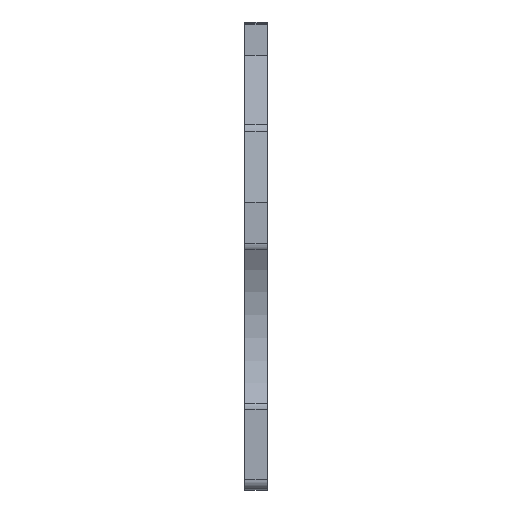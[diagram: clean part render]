
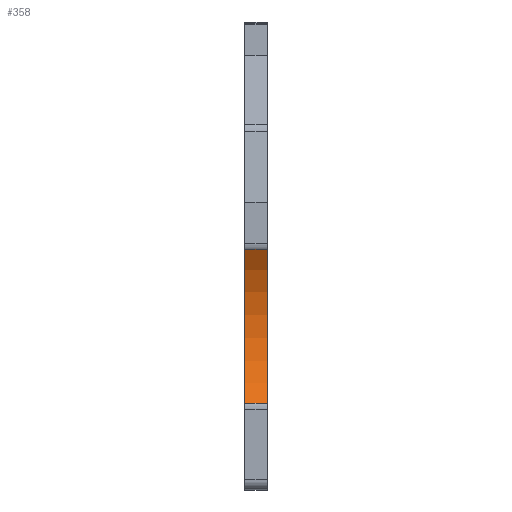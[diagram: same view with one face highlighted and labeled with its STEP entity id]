
A CAD part, front view. The second image highlights one B-rep face of the part: STEP entity #358.
In plain terms, the highlighted cylindrical face has radius 13.2 mm (diameter 26.4 mm), a partial arc.
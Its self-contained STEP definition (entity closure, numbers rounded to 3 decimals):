
#298=CARTESIAN_POINT('',(14.35,0.177,30.5));
#299=VERTEX_POINT('',#298);
#307=CARTESIAN_POINT('',(12.15,0.177,30.5));
#308=VERTEX_POINT('',#307);
#309=CARTESIAN_POINT('',(14.35,0.177,30.5));
#310=DIRECTION('',(-1.,0.,0.));
#311=VECTOR('',#310,2.2);
#312=LINE('',#309,#311);
#313=EDGE_CURVE('',#299,#308,#312,.T.);
#326=CARTESIAN_POINT('',(14.35,-10.685,23.));
#327=DIRECTION('',(0.,0.823,0.568));
#328=DIRECTION('',(-1.,0.,0.));
#329=AXIS2_PLACEMENT_3D('',#326,#328,#327);
#330=CYLINDRICAL_SURFACE('',#329,13.2);
#331=CARTESIAN_POINT('',(14.35,0.177,15.5));
#332=VERTEX_POINT('',#331);
#333=CARTESIAN_POINT('',(14.35,-10.685,23.));
#334=DIRECTION('',(0.,0.823,0.568));
#335=DIRECTION('',(-1.,0.,0.));
#336=AXIS2_PLACEMENT_3D('',#333,#335,#334);
#337=CIRCLE('',#336,13.2);
#338=EDGE_CURVE('',#299,#332,#337,.T.);
#339=ORIENTED_EDGE('',*,*,#338,.T.);
#340=CARTESIAN_POINT('',(12.15,0.177,15.5));
#341=VERTEX_POINT('',#340);
#342=CARTESIAN_POINT('',(14.35,0.177,15.5));
#343=DIRECTION('',(-1.,0.,0.));
#344=VECTOR('',#343,2.2);
#345=LINE('',#342,#344);
#346=EDGE_CURVE('',#332,#341,#345,.T.);
#347=ORIENTED_EDGE('',*,*,#346,.T.);
#348=CARTESIAN_POINT('',(12.15,-10.685,23.));
#349=DIRECTION('',(0.,0.823,0.568));
#350=DIRECTION('',(-1.,0.,0.));
#351=AXIS2_PLACEMENT_3D('',#348,#350,#349);
#352=CIRCLE('',#351,13.2);
#353=EDGE_CURVE('',#308,#341,#352,.T.);
#354=ORIENTED_EDGE('',*,*,#353,.F.);
#355=ORIENTED_EDGE('',*,*,#313,.F.);
#356=EDGE_LOOP('',(#339,#347,#354,#355));
#357=FACE_OUTER_BOUND('',#356,.F.);
#358=ADVANCED_FACE('',(#357),#330,.F.);
